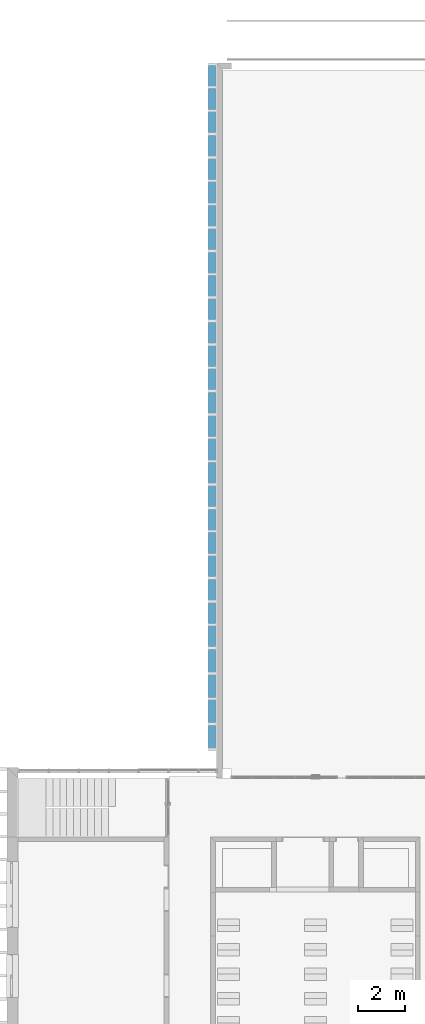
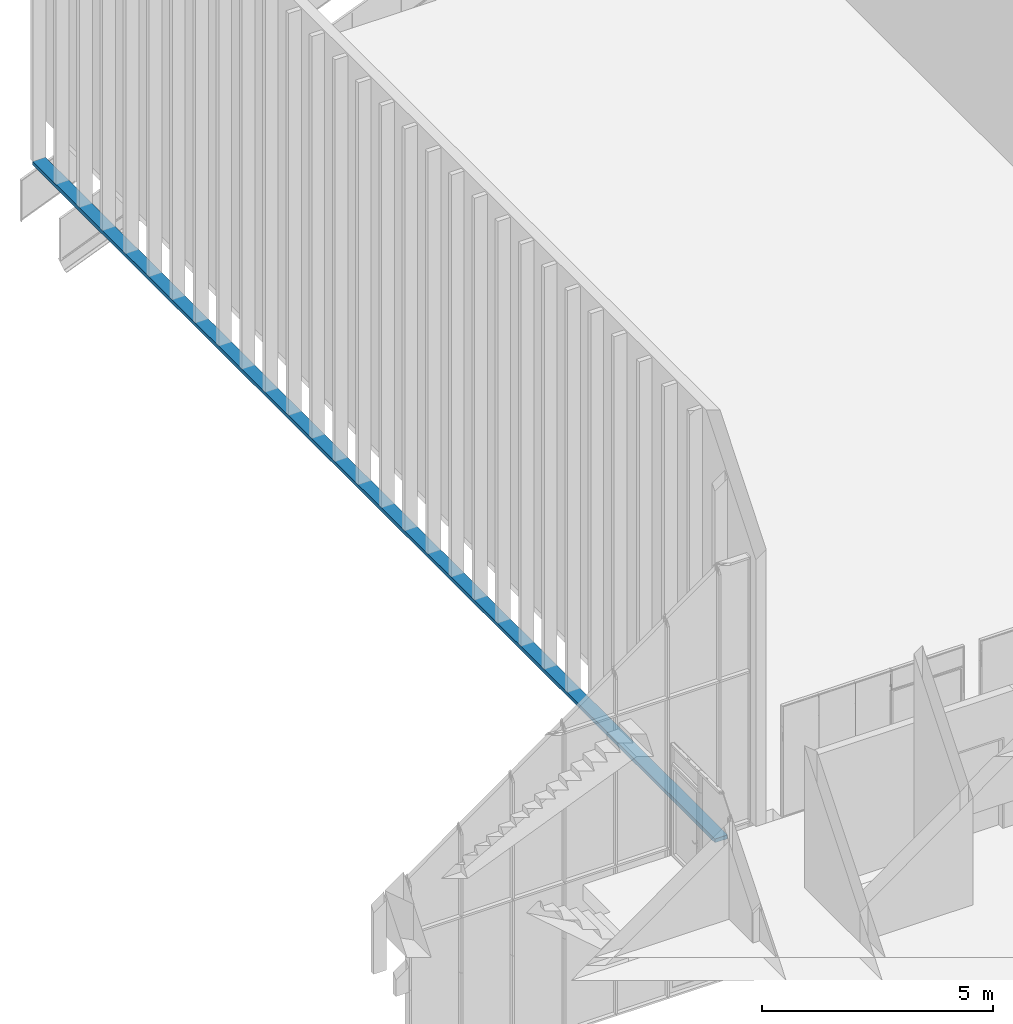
# One storey, part 7 of 62: 1 beam.
"""IFC2X3 building model written with IfcOpenShell, lengths in millimetres."""

from ifc_helpers import new_model, entity, si_unit, converted_unit, derived_unit, money_unit, direction, frame, frame_2d, origin_with_axes, place, context, subcontext, project, spatial, rectangle, extrude, material, type_object, element, save


model = new_model("IFC2X3")

# Units and contexts
model_context = context("Model", 3, precision=0.01, world=origin_with_axes(), true_north=direction((0.0, 1.0)))
body_context = subcontext(model_context, "Body", "Model", "MODEL_VIEW")
ifc_project = project(units=[si_unit("LENGTHUNIT", "METRE", prefix="MILLI"), si_unit("AREAUNIT", "SQUARE_METRE"), si_unit("VOLUMEUNIT", "CUBIC_METRE"), converted_unit("PLANEANGLEUNIT", "DEGREE", entity("IfcPlaneAngleMeasure", 0.0174532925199), si_unit("PLANEANGLEUNIT", "RADIAN"), dimensions=[0, 0, 0, 0, 0, 0, 0]), si_unit("SOLIDANGLEUNIT", "STERADIAN"), money_unit("EUR"), converted_unit("TIMEUNIT", "Year", entity("IfcTimeMeasure", 31556926.0), si_unit("TIMEUNIT", "SECOND"), dimensions=[0, 0, 1, 0, 0, 0, 0]), si_unit("MASSUNIT", "GRAM", prefix="KILO"), si_unit("THERMODYNAMICTEMPERATUREUNIT", "DEGREE_CELSIUS"), si_unit("LUMINOUSINTENSITYUNIT", "LUMEN"), si_unit("ENERGYUNIT", "JOULE", prefix="MEGA"), derived_unit("THERMALCONDUCTANCEUNIT", [(si_unit("POWERUNIT", "WATT"), 1), (si_unit("LENGTHUNIT", "METRE"), -1), (si_unit("THERMODYNAMICTEMPERATUREUNIT", "KELVIN"), -1)]), derived_unit("SPECIFICHEATCAPACITYUNIT", [(si_unit("ENERGYUNIT", "JOULE"), 1), (si_unit("MASSUNIT", "GRAM", prefix="KILO"), -1), (si_unit("THERMODYNAMICTEMPERATUREUNIT", "KELVIN"), -1)]), derived_unit("MASSDENSITYUNIT", [(si_unit("MASSUNIT", "GRAM", prefix="KILO"), 1), (si_unit("VOLUMEUNIT", "CUBIC_METRE"), -1)])], contexts=[model_context])

# Site, building, storey
site_placement = place(None, origin_with_axes())
site = spatial("IfcSite", under=ifc_project, at=site_placement, Name="Puškini 31, Narva", CompositionType="ELEMENT")
building_placement = place(site_placement, origin_with_axes())
building = spatial("IfcBuilding", under=site, at=building_placement, Name="Narva Riigigümnaasium", CompositionType="ELEMENT")
storey_placement = place(building_placement, frame((0.0, 0.0, 660.0), z_axis=(0.0, 0.0, 1.0), x_axis=(1.0, 0.0, 0.0)))
storey = spatial("IfcBuildingStorey", under=building, at=storey_placement, Name="2.korrus +0.66", CompositionType="ELEMENT", Elevation=660.0)

# Beam
ifc_material = material(Name="Puitroov")
beam_type = type_object("IfcBeamType", Name="Puitroov 320 x 100", PredefinedType="BEAM")
beam_placement = place(storey_placement, frame((36757.0, 254468.80584, -920.0), z_axis=(0.0, 0.0, 1.0), x_axis=(-1.0, 0.0, 0.0)))
element("IfcBeam", 1, at=beam_placement, inside=storey, type_object=beam_type, material=ifc_material, Name="TALA", ObjectType="BEAM", context=body_context, shape_type="SweptSolid", body=[
    extrude(rectangle(XDim=100.0, YDim=320.0, at=frame_2d((-50.0, 0.0), x_axis=(1.0, 0.0))), frame((0.0, 0.0, 0.0), z_axis=(0.0, 1.0, 0.0), x_axis=(0.0, 0.0, 1.0)), (0.0, 0.0, 1.0), 29492.8058357),
])

save(model, "model.ifc")
